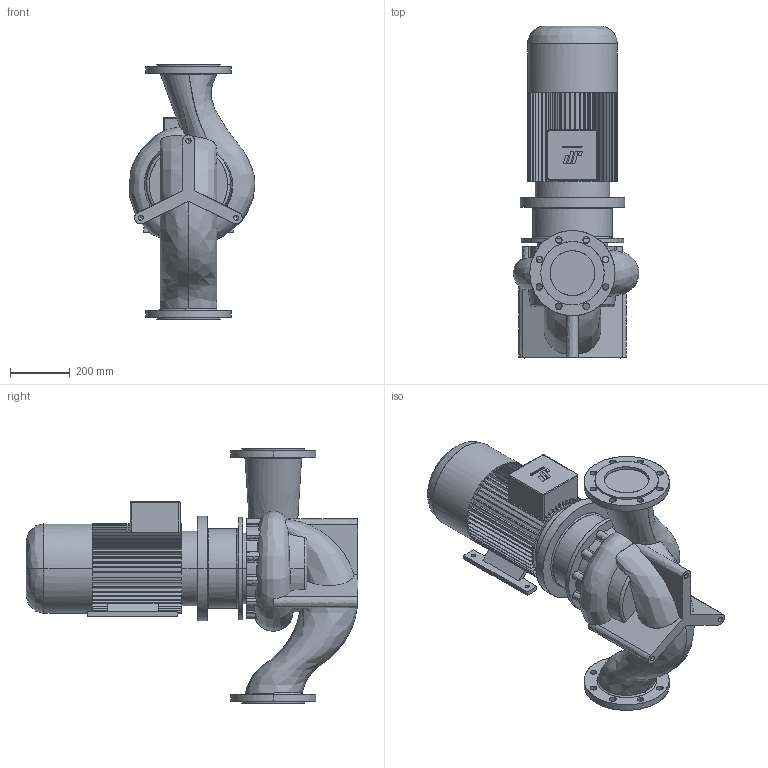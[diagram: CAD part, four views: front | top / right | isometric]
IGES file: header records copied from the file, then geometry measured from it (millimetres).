
Start section: CombiLine
Global section: file name: CLB_150-250_IEC160L_ND10.igs; native system:  By UGS Corp.; preprocessor: XPlus GENERIC/IGES 3.0; author: Stageplaats; organization: Johnson Pump Water B.V.; date: 20070718.084406; units: millimetre
Bounding box: 420.53 x 1110.5 x 850 mm (x, y, z)
Surface area: 2640641.4 mm2 (no closed solid volume)
Topology: 0 solids, 0 shells, 613 faces, 3720 edges, 3714 vertices
Faces by surface type: bspline 613
